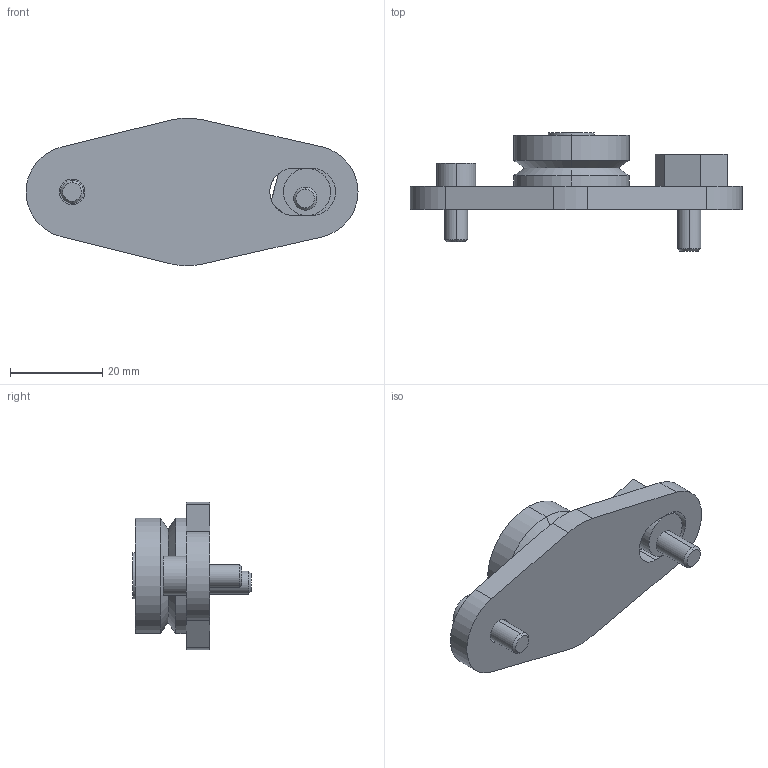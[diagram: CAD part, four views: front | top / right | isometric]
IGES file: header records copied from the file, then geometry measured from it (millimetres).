
Start section: 3D InterOp IGES (Version 21 0 1), Spatial Corp. Copyright (c) 1999-2007.
Global section: file name: RBHJ25E.igs; native system: Spatial Corp.; preprocessor: 3D InterOp GENERIC/IGES 3.0; author: Noname; organization: Noname; date: 20220627.165102; units: millimetre
Bounding box: 72 x 25.6 x 31.96 mm (x, y, z)
Surface area: 6637.1 mm2 (no closed solid volume)
Topology: 0 solids, 0 shells, 78 faces, 378 edges, 378 vertices
Faces by surface type: extrusion 45, revolution 33
